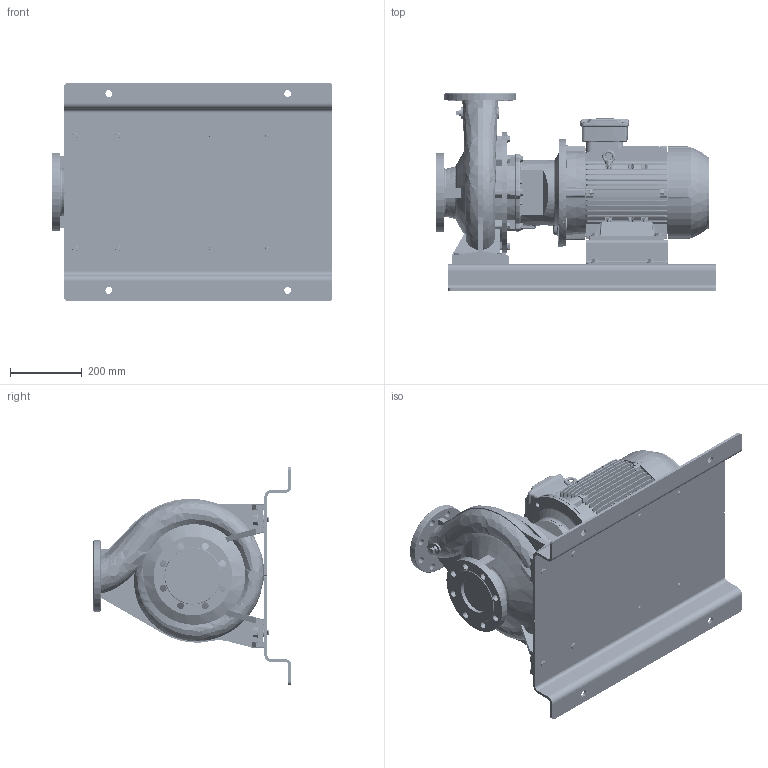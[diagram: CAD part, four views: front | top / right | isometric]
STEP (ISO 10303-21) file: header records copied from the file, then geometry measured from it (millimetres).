
FILE_DESCRIPTION (( 'STEP AP214' ), '1' );
FILE_NAME ('GSD4 80-250_7.5_(132M)_W21_BP.STEP', '2026-05-08T06:44:18', ( '' ), ( '' ), 'SwSTEP 2.0', 'SolidWorks 2024', '' );
FILE_SCHEMA (( 'AUTOMOTIVE_DESIGN' ));
Length unit declared in the file: millimetre
Products named in the file (13): N7S6 GSDA-761 F1-1832941-00; Parametric bolt and washer_SFT-A353B; 140_178 x 68 BP - 271472191; Parametric bolt_SFT-A249B; 80-250-132M_ﾃﾞﾌｫﾙﾄ; GSD4 80-250_7.5_(132M)_W21_BP; Parametric Flat Washer_M10; Parametric bolt and washer_SFT-A253B; 132M ALIE3_W21T_B35; Parametric bolt_SFT-A353B; Parametric bolt_SFT-A253B; Parametric bolt and washer_SFT-A249B; Parametric Flat Washer_M16
Assembly tree (22 placements, depth 3):
  GSD4 80-250_7.5_(132M)_W21_BP
    80-250-132M_ﾃﾞﾌｫﾙﾄ
    N7S6 GSDA-761 F1-1832941-00
    140_178 x 68 BP - 271472191
    Parametric bolt and washer_SFT-A249B  x4
      Parametric bolt_SFT-A249B
      Parametric Flat Washer_M10
    Parametric bolt and washer_SFT-A253B  x4
      Parametric bolt_SFT-A253B
      Parametric Flat Washer_M10
    Parametric bolt and washer_SFT-A353B  x4
      Parametric bolt_SFT-A353B
      Parametric Flat Washer_M16
    132M ALIE3_W21T_B35
Bounding box: 785 x 555 x 610 mm (x, y, z)
Volume: 42302155.7 mm3; surface area: 3519294.6 mm2
Topology: 38 solids, 38 shells, 5372 faces, 13998 edges, 9036 vertices
Faces by surface type: plane 3041, cylinder 1401, torus 344, cone 277, bspline 277, sphere 32
Entity records: 193462 total; most frequent: CARTESIAN_POINT 76623, ORIENTED_EDGE 25260, DIRECTION 22621, EDGE_CURVE 12630, VERTEX_POINT 8163, LINE 8123, VECTOR 8123, AXIS2_PLACEMENT_3D 7249
